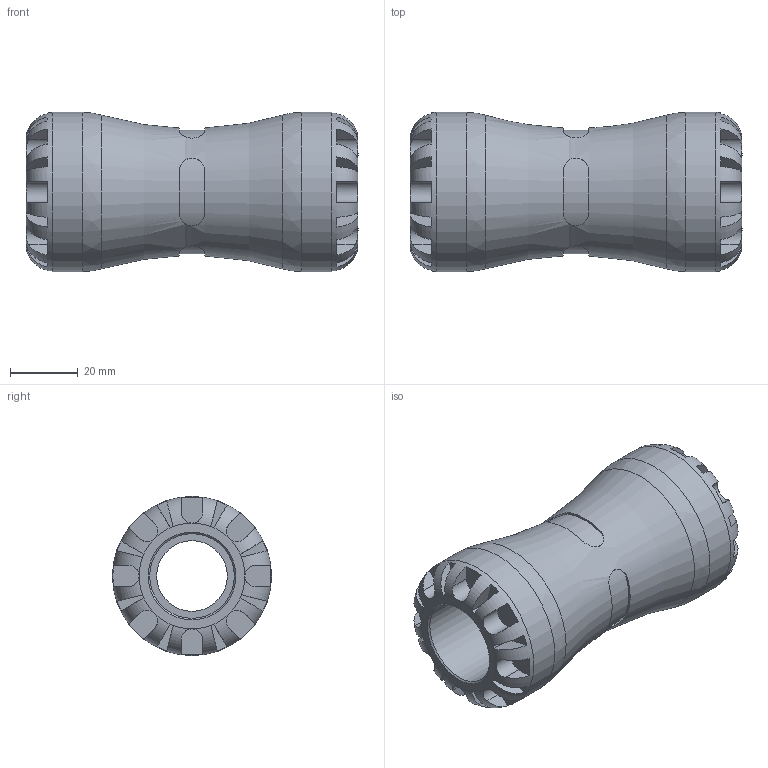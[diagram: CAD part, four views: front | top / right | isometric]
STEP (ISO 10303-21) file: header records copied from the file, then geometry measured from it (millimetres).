
FILE_DESCRIPTION(/* description */ ('PLASSON COUPLER 25X25 SERIES 1'),/* implementation_level */ '2;1');
FILE_NAME(/* name */ 'C:\Dropbox\KIMPROJECTS-Inventor\99-16-3568-Processing\1001\100100025_190100025.ipt.stp',/* time_stamp */ '2017-01-17T10:59:07+02:00',/* author */ ('KIM'),/* organization */ (''),/* preprocessor_version */ 'ST-DEVELOPER v15.6',/* originating_system */ 'Autodesk Inventor 2015',/* authorisation */ '');
FILE_SCHEMA (('AUTOMOTIVE_DESIGN { 1 0 10303 214 3 1 1 }'));
Length unit declared in the file: millimetre
Products named in the file (1): 100100025_190100025
Bounding box: 98 x 47 x 47 mm (x, y, z)
Volume: 88699.6 mm3; surface area: 25205 mm2
Topology: 1 solids, 1 shells, 164 faces, 419 edges, 262 vertices
Faces by surface type: plane 108, cylinder 49, torus 3, cone 2, bspline 2
Full cylindrical faces by diameter (mm): 20.833 x1, 25 x2, 47 x2
Entity records: 6444 total; most frequent: CARTESIAN_POINT 2475, ORIENTED_EDGE 808, DIRECTION 762, EDGE_CURVE 404, AXIS2_PLACEMENT_3D 309, VERTEX_POINT 258, EDGE_LOOP 182, STYLED_ITEM 165
